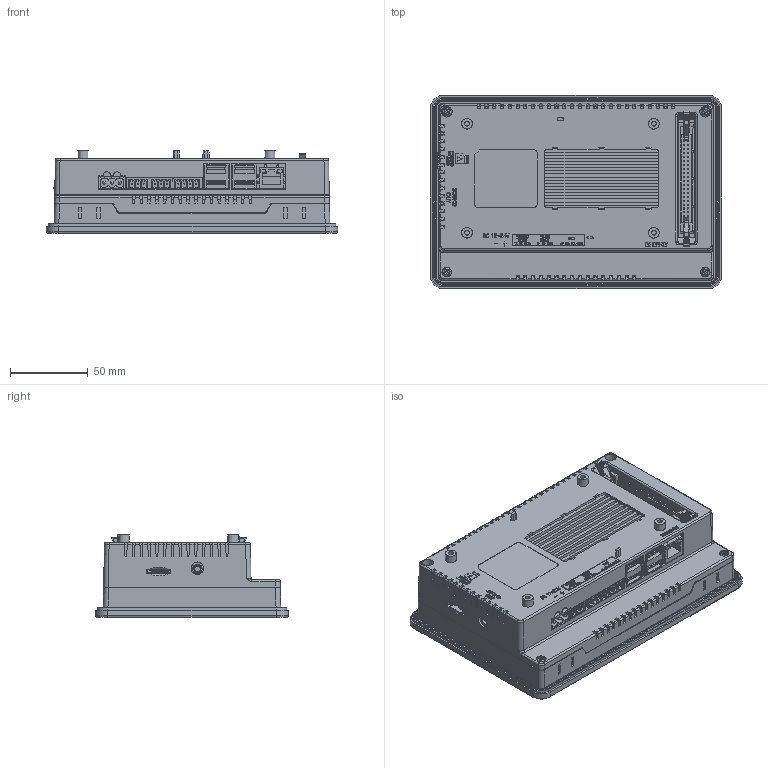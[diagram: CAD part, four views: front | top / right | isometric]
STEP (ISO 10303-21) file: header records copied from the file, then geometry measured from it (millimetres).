
FILE_DESCRIPTION (( 'STEP AP214' ), '1' );
FILE_NAME ('CPi_B070WR_rev0_STEP颇老侩.STEP', '2023-10-31T10:11:53', ( '' ), ( '' ), 'SwSTEP 2.0', 'SolidWorks 2020', '' );
FILE_SCHEMA (( 'AUTOMOTIVE_DESIGN' ));
Length unit declared in the file: millimetre
Products named in the file (1): CPi_B070WR_rev0_STEP颇老侩
Bounding box: 187 x 124 x 53 mm (x, y, z)
Volume: 701429.6 mm3; surface area: 253795.2 mm2
Topology: 22 solids, 42 shells, 3722 faces, 9981 edges, 6518 vertices
Faces by surface type: plane 2722, bspline 580, cylinder 343, torus 36, cone 36, sphere 5
Full cylindrical faces by diameter (mm): 0.6 x10, 0.672 x1, 0.868 x1, 1.922 x1, 2 x3, 2.6 x14, 2.9 x8, 3 x4, 3.5 x2, 3.6 x1, 5.4 x4, 6 x5, 8 x1
Entity records: 138370 total; most frequent: CARTESIAN_POINT 50491, ORIENTED_EDGE 19730, DIRECTION 14980, EDGE_CURVE 9865, VECTOR 7780, LINE 7780, VERTEX_POINT 6501, EDGE_LOOP 4108
